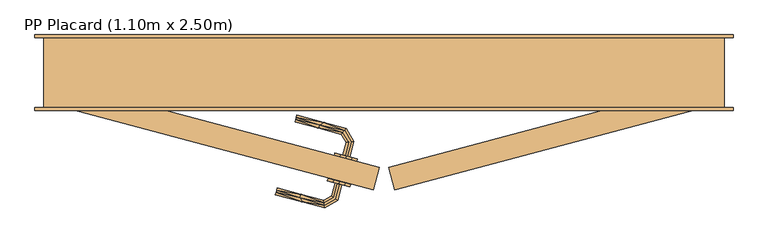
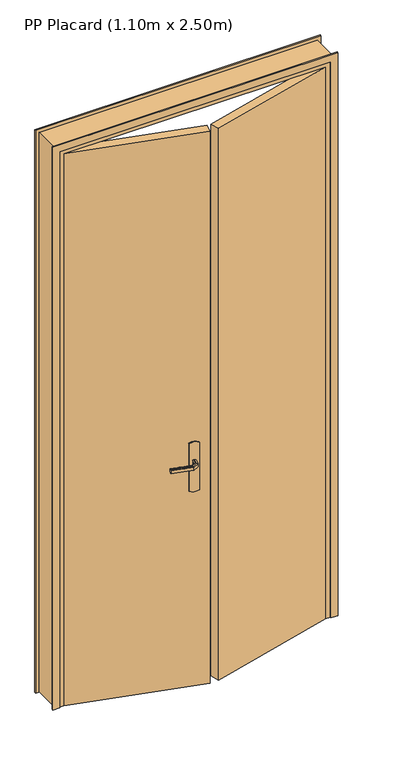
"""IFC4 building model written with IfcOpenShell, lengths in millimetres: door geometry, PP Placard (1.10m x 2.50m)."""

import ifcopenshell
import ifcopenshell.guid

model = None  # the IFC model being written
_history = None  # IfcOwnerHistory: only IFC2X3 demands one
_inside = {}  # id of a spatial element -> (the spatial element, [elements in it])
_under = {}  # id of a project, library or spatial element -> (it, [spatial elements below it])
_declared = {}  # id of a project -> (the project, [libraries it declares])
_typed = {}  # id of a type object -> (the type object, [elements of that type])
_made_of = {}  # id of a material, layer set ... -> (it, [elements and type objects made of it])


def new_model(schema):
    """Start an empty IFC model of exactly this schema.

    Asked for "IFC4X3", IfcOpenShell would pick the latest addendum, in which some entities
    have other attributes; the version numbers below select the first issue.
    IFC2X3 requires an IfcOwnerHistory on every rooted entity: one is made here for all.
    """
    global model, _history
    if schema == "IFC4X3":
        model = ifcopenshell.file(schema_version=(4, 3, 0, 0))
    else:
        model = ifcopenshell.file(schema=schema)
    _inside.clear()
    _under.clear()
    _declared.clear()
    _typed.clear()
    _made_of.clear()
    _history = None
    if model.schema == "IFC2X3":
        org = make("IfcOrganization", Name="unknown")
        user = make(
            "IfcPersonAndOrganization",
            ThePerson=make("IfcPerson", FamilyName="unknown"),
            TheOrganization=org,
        )
        app = make(
            "IfcApplication",
            ApplicationDeveloper=org,
            Version="unknown",
            ApplicationFullName="unknown",
            ApplicationIdentifier="unknown",
        )
        _history = make(
            "IfcOwnerHistory",
            OwningUser=user,
            OwningApplication=app,
            ChangeAction="ADDED",
            CreationDate=0,
        )
    return model


def make(cls, **values):
    """One entity of the class cls with the attributes given. An attribute that is None is left unset."""
    return model.create_entity(
        cls, **{name: value for name, value in values.items() if value is not None}
    )


def rooted(cls, **values):
    """An entity with a GlobalId (a new one), such as an element, a storey or a relation."""
    return make(cls, GlobalId=ifcopenshell.guid.new(), OwnerHistory=_history, **values)


def si_unit(unit_type, name, prefix=None):
    """IfcSIUnit, for example si_unit("LENGTHUNIT", "METRE", prefix="MILLI")."""
    return make("IfcSIUnit", UnitType=unit_type, Prefix=prefix, Name=name)


def assignment(units):
    """IfcUnitAssignment: the units of a project."""
    return None if units is None else make("IfcUnitAssignment", Units=units)


def point(xyz):
    """IfcCartesianPoint."""
    return None if xyz is None else make("IfcCartesianPoint", Coordinates=xyz)


def direction(xyz):
    """IfcDirection."""
    return None if xyz is None else make("IfcDirection", DirectionRatios=xyz)


def frame(location, z_axis=None, x_axis=None):
    """IfcAxis2Placement3D, a coordinate frame: its origin and axes. An axis left out is left unset."""
    return make(
        "IfcAxis2Placement3D",
        Location=point(location),
        Axis=direction(z_axis),
        RefDirection=direction(x_axis),
    )


def origin():
    """The frame at (0, 0, 0) with its axes left unset."""
    return frame((0.0, 0.0, 0.0))


def origin_with_axes():
    """The frame at (0, 0, 0) with the z axis (0, 0, 1) and the x axis (1, 0, 0) written out."""
    return frame((0.0, 0.0, 0.0), z_axis=(0.0, 0.0, 1.0), x_axis=(1.0, 0.0, 0.0))


def place(relative_to, where):
    """IfcLocalPlacement: puts the frame where relative to a parent placement (None: the world)."""
    return make(
        "IfcLocalPlacement", PlacementRelTo=relative_to, RelativePlacement=where
    )


def context(
    kind, dimensions, precision=None, world=None, true_north=None, identifier=None
):
    """IfcGeometricRepresentationContext, for example the 3D "Model" context."""
    return make(
        "IfcGeometricRepresentationContext",
        ContextIdentifier=identifier,
        ContextType=kind,
        CoordinateSpaceDimension=dimensions,
        Precision=precision,
        WorldCoordinateSystem=world,
        TrueNorth=true_north,
    )


def project(units=None, contexts=None):
    """IfcProject with its units and contexts."""
    return rooted(
        "IfcProject",
        Name="project",
        RepresentationContexts=contexts,
        UnitsInContext=assignment(units),
    )


def spatial(cls, under=None, at=None, **own):
    """A site, building, storey or space (cls), placed at a placement, below another one or the project."""
    s = rooted(cls, ObjectPlacement=at, **own)
    if under is not None:
        _under.setdefault(under.id(), (under, []))[1].append(s)
    return s


def polyline(points):
    """IfcPolyline through the points."""
    return make("IfcPolyline", Points=[point(p) for p in points])


def outline(outer, holes=None, kind="AREA"):
    """IfcArbitraryClosedProfileDef: a profile drawn as a closed curve; with holes, ...WithVoids."""
    if holes is None:
        return make("IfcArbitraryClosedProfileDef", ProfileType=kind, OuterCurve=outer)
    return make(
        "IfcArbitraryProfileDefWithVoids",
        ProfileType=kind,
        OuterCurve=outer,
        InnerCurves=holes,
    )


def extrude(swept, where, along, depth):
    """IfcExtrudedAreaSolid: the profile swept, set in the frame where, extruded along a direction by depth."""
    return make(
        "IfcExtrudedAreaSolid",
        SweptArea=swept,
        Position=where,
        ExtrudedDirection=direction(along),
        Depth=depth,
    )


def faces_of(points, faces, orient=None, outer=None):
    """IfcFace entities. A face is a list of loops; a loop is a list of indices into points, from 0.

    orient and outer hold one flag for each loop. By default every Orientation is true, the
    first loop of a face is its IfcFaceOuterBound and the others are IfcFaceBound.
    """
    made = []
    for i, loops in enumerate(faces):
        bounds = []
        for j, loop in enumerate(loops):
            is_outer = j == 0 if outer is None else outer[i][j]
            bounds.append(
                make(
                    "IfcFaceOuterBound" if is_outer else "IfcFaceBound",
                    Bound=make("IfcPolyLoop", Polygon=[points[k] for k in loop]),
                    Orientation=True if orient is None else orient[i][j],
                )
            )
        made.append(make("IfcFace", Bounds=bounds))
    return made


def faceted_brep(points, faces, orient=None, outer=None, voids=None):
    """IfcFacetedBrep: a solid bounded by flat faces; with voids (closed shells), ...WithVoids."""
    shared = [point(p) for p in points]
    hull = make("IfcClosedShell", CfsFaces=faces_of(shared, faces, orient, outer))
    if voids is None:
        return make("IfcFacetedBrep", Outer=hull)
    return make(
        "IfcFacetedBrepWithVoids",
        Outer=hull,
        Voids=[
            make(cls, CfsFaces=faces_of(shared, fs, o, b)) for cls, fs, o, b in voids
        ],
    )


def shape(context_of_items, identifier, shape_type, items):
    """IfcShapeRepresentation: the items that make up one representation, for example the "Body"."""
    return make(
        "IfcShapeRepresentation",
        ContextOfItems=context_of_items,
        RepresentationIdentifier=identifier,
        RepresentationType=shape_type,
        Items=items,
    )


def source(mapping_origin, context_of_items, identifier, shape_type, items):
    """IfcRepresentationMap: a shape defined once, which mapped items show again and again."""
    return make(
        "IfcRepresentationMap",
        MappingOrigin=mapping_origin,
        MappedRepresentation=shape(context_of_items, identifier, shape_type, items),
    )


def transform(
    local_origin,
    x_axis=None,
    y_axis=None,
    z_axis=None,
    scale=None,
    scale2=None,
    scale3=None,
    uniform=True,
):
    """IfcCartesianTransformationOperator3D, or its non-uniform kind. x_axis, y_axis, z_axis: its Axis1, 2, 3."""
    if uniform:
        return make(
            "IfcCartesianTransformationOperator3D",
            Axis1=direction(x_axis),
            Axis2=direction(y_axis),
            LocalOrigin=point(local_origin),
            Scale=scale,
            Axis3=direction(z_axis),
        )
    return make(
        "IfcCartesianTransformationOperator3DnonUniform",
        Axis1=direction(x_axis),
        Axis2=direction(y_axis),
        LocalOrigin=point(local_origin),
        Scale=scale,
        Axis3=direction(z_axis),
        Scale2=scale2,
        Scale3=scale3,
    )


def mapped(mapping_source, mapping_target):
    """IfcMappedItem: shows the shape of a source again, moved by a transform."""
    return make(
        "IfcMappedItem", MappingSource=mapping_source, MappingTarget=mapping_target
    )


def made_of(thing, what):
    """Note that an element or type object is made of a material, layer set ...; save() writes the relation."""
    if what is not None:
        _made_of.setdefault(what.id(), (what, []))[1].append(thing)
    return thing


def element(
    cls,
    number,
    at=None,
    inside=None,
    cuts=None,
    type_object=None,
    material=None,
    context=None,
    identifier="Body",
    shape_type=None,
    held_by="IfcProductDefinitionShape",
    body=None,
    shapes=None,
    **own,
):
    """One element of the class cls, such as IfcWall. Its Tag is "e" and its number.

    at: its placement. inside: the storey or other place that contains it. cuts: it is an
    opening in that element (IfcRelVoidsElement). A single representation is given by context,
    identifier, shape_type and body (its items); several are given by shapes. held_by: the class
    of the entity that holds the representations. save() writes the other relations.
    """
    e = rooted(cls, Tag="e%d" % number, ObjectPlacement=at, **own)
    if body is not None:
        shapes = [shape(context, identifier, shape_type, body)]
    if shapes is not None:
        e.Representation = make(held_by, Representations=shapes)
    if inside is not None:
        _inside.setdefault(inside.id(), (inside, []))[1].append(e)
    if cuts is not None:
        rooted(
            "IfcRelVoidsElement", RelatingBuildingElement=cuts, RelatedOpeningElement=e
        )
    if type_object is not None:
        _typed.setdefault(type_object.id(), (type_object, []))[1].append(e)
    return made_of(e, material)


def aggregate(whole, parts):
    """IfcRelAggregates: a whole, such as a stair, and the parts it consists of."""
    return rooted("IfcRelAggregates", RelatingObject=whole, RelatedObjects=parts)


def save(model, path):
    """Write the relations noted so far, then the file.

    IfcRelAggregates (storeys below a building ...), IfcRelContainedInSpatialStructure (elements
    in a storey), IfcRelDefinesByType, IfcRelAssociatesMaterial and IfcRelDeclares: one each for
    every whole, place, type object, material and project.
    """
    for whole, parts in _under.values():
        aggregate(whole, parts)
    for where, things in _inside.values():
        rooted(
            "IfcRelContainedInSpatialStructure",
            RelatedElements=things,
            RelatingStructure=where,
        )
    for kind, things in _typed.values():
        rooted("IfcRelDefinesByType", RelatedObjects=things, RelatingType=kind)
    for what, things in _made_of.values():
        rooted("IfcRelAssociatesMaterial", RelatedObjects=things, RelatingMaterial=what)
    for by, libraries in _declared.values():
        rooted("IfcRelDeclares", RelatingContext=by, RelatedDefinitions=libraries)
    model.write(path)


def pp_placard_1_10m_x_2_50m_875f3beb(model_context):
    return source(origin(), model_context, "Body", "SolidModel", [
        extrude(outline(polyline([(663.3880337, -103.7134418), (1194.6472382, 38.6370331), (1205.0, 0.0), (673.7407955, -142.3504748), (663.3880337, -103.7134418)])), origin_with_axes(), (0.0, 0.0, 1.0), 2450.0),
        extrude(outline(polyline([(0.0, 1255.0), (2500.0, 1255.0), (2500.0, 55.0), (0.0, 55.0), (0.0, 85.0), (2470.0, 85.0), (2470.0, 1225.0), (0.0, 1225.0), (0.0, 1255.0)])), frame((0.0, 120.0, 0.0), z_axis=(0.0, 1.0, 0.0), x_axis=(0.0, 0.0, 1.0)), (0.0, 0.0, 1.0), 5.0),
        faceted_brep([(1240.0, 0.0, 0.0), (1205.0, 0.0, 0.0), (1205.0, 40.0, 0.0), (1190.0, 40.0, 0.0), (1190.0, 120.0, 0.0), (1240.0, 120.0, 0.0), (1240.0, 120.0, 2485.0), (1240.0, 0.0, 2485.0), (1190.0, 120.0, 2435.0), (120.0, 120.0, 2435.0), (120.0, 120.0, 0.0), (70.0, 120.0, 0.0), (70.0, 120.0, 2485.0), (1190.0, 40.0, 2435.0), (1205.0, 40.0, 2450.0), (105.0, 40.0, 2450.0), (105.0, 40.0, 0.0), (120.0, 40.0, 0.0), (120.0, 40.0, 2435.0), (1205.0, 0.0, 2450.0), (70.0, 0.0, 2485.0), (70.0, 0.0, 0.0), (105.0, 0.0, 0.0), (105.0, 0.0, 2450.0)], [[[0, 1, 2, 3, 4, 5]], [[5, 6, 7, 0]], [[4, 8, 9, 10, 11, 12, 6, 5]], [[3, 13, 8, 4]], [[2, 14, 15, 16, 17, 18, 13, 3]], [[1, 19, 14, 2]], [[0, 7, 20, 21, 22, 23, 19, 1]], [[12, 11, 21, 20]], [[21, 11, 10, 17, 16, 22]], [[18, 17, 10, 9]], [[23, 22, 16, 15]], [[6, 12, 20, 7]], [[13, 18, 9, 8]], [[19, 23, 15, 14]]]),
        faceted_brep([(587.9942236, -82.8304841, 992.2195592), (591.9068002, -83.8788558, 992.2195592), (595.7460669, -84.9075842, 993.0), (595.7460669, -84.9075842, 1007.0), (591.9068002, -83.8788558, 1007.7804408), (587.9942236, -82.8304841, 1007.7804408), (584.154957, -81.8017556, 1007.0), (584.154957, -81.8017556, 993.0), (589.9745561, -60.0827159, 1007.0), (589.9745561, -60.0827159, 993.0), (594.239936, -59.521168, 1007.7804408), (598.5867624, -58.9488974, 1007.7804408), (587.1412545, -39.1246963, 1007.7804408), (584.4722405, -42.603023, 1007.7804408), (602.8521423, -58.3873495, 1007.0), (602.8521423, -58.3873495, 993.0), (598.5867624, -58.9488974, 992.2195592), (594.239936, -59.521168, 992.2195592), (584.4722405, -42.603023, 992.2195592), (587.1412545, -39.1246963, 992.2195592), (581.8532358, -46.0161764, 1007.0), (581.8532358, -46.0161764, 993.0), (589.7602592, -35.7115428, 1007.0), (589.7602592, -35.7115428, 993.0), (503.1346428, -20.8086794, 1007.7804408), (504.1830145, -16.8961028, 1007.7804408), (505.2117429, -13.0568362, 1007.0), (505.2117429, -13.0568362, 993.0), (504.1830145, -16.8961028, 992.2195592), (503.1346428, -20.8086794, 992.2195592), (502.1059144, -24.6479461, 993.0), (502.1059144, -24.6479461, 1007.0), (541.9795751, -35.3320613, 1007.0), (541.9795866, -35.3320643, 993.0), (544.3276275, -29.7495629, 1007.8786868), (551.1903704, -25.3767723, 1007.0), (551.1903718, -25.3767727, 993.0), (544.3276273, -29.7495629, 992.1213132)], [[[0, 1, 2, 3, 4, 5, 6, 7]], [[8, 9, 7, 6]], [[5, 10, 8, 6]], [[5, 4, 11, 12, 13, 10]], [[3, 14, 11, 4]], [[14, 3, 2, 15]], [[2, 1, 16, 15]], [[1, 0, 17, 18, 19, 16]], [[0, 7, 9, 17]], [[20, 21, 9, 8]], [[8, 10, 13, 20]], [[14, 22, 12, 11]], [[23, 22, 14, 15]], [[15, 16, 19, 23]], [[17, 9, 21, 18]], [[24, 25, 26, 27, 28, 29, 30, 31]], [[21, 20, 32, 31, 30, 33]], [[34, 24, 32]], [[25, 34, 35]], [[13, 32, 20]], [[24, 31, 32]], [[25, 35, 26]], [[35, 12, 22]], [[34, 12, 35]], [[34, 13, 12]], [[34, 32, 13]], [[24, 34, 25]], [[22, 23, 36, 27, 26, 35]], [[37, 28, 36]], [[36, 28, 27]], [[36, 23, 19]], [[18, 33, 37]], [[33, 18, 21]], [[30, 29, 33]], [[37, 29, 28]], [[37, 33, 29]], [[37, 36, 19]], [[18, 37, 19]]]),
        extrude(outline(polyline([(0.0, 0.0), (206.2910989, 39.2935427), (212.0216555, 30.5643917), (215.2976776, 20.6495021), (215.8959097, 10.2245573), (213.7755833, 0.0), (7.4844843, -39.2935427), (1.7539277, -30.5643916), (-1.5220943, -20.6495021), (-2.1203264, -10.2245572), (0.0, 0.0)])), frame((596.3280762, -136.8273421, 870.0), z_axis=(0.2588190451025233, 0.9659258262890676, 0.0), x_axis=(-0.18073641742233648, 0.04842817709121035, 0.982338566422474)), (0.0, 0.0, 1.0), 5.0),
        faceted_brep([(575.0532714, -131.1267754, 1007.7804408), (578.9658479, -132.1751471, 1007.7804408), (582.8051146, -133.2038755, 1007.0), (582.8051146, -133.2038755, 993.0), (578.9658479, -132.1751471, 992.2195592), (575.0532714, -131.1267754, 992.2195592), (571.2140047, -130.098047, 993.0), (571.2140047, -130.098047, 1007.0), (572.2353685, -157.2936382, 1007.7804408), (575.648522, -159.9126429, 1007.0), (568.7570418, -154.6246242, 1007.7804408), (552.0073098, -164.2950864, 1007.7804408), (552.5795804, -168.6419128, 1007.7804408), (565.3438883, -152.0056194, 1007.0), (565.3438883, -152.0056194, 993.0), (568.7570418, -154.6246242, 992.2195592), (572.2353685, -157.2936382, 992.2195592), (552.5795804, -168.6419128, 992.2195592), (552.0073098, -164.2950864, 992.2195592), (575.648522, -159.9126429, 993.0), (553.1411283, -172.9072927, 1007.0), (551.4457619, -160.0297065, 1007.0), (551.4457619, -160.0297065, 993.0), (553.1411283, -172.9072927, 993.0), (468.486007, -150.2240213, 1007.0), (469.5147354, -146.3847546, 1007.7804408), (470.5631071, -142.4721781, 1007.7804408), (471.5918355, -138.6329114, 1007.0), (471.5918355, -138.6329114, 993.0), (470.5631071, -142.4721781, 992.2195592), (469.5147354, -146.3847546, 992.2195592), (468.486007, -150.2240213, 993.0), (510.7610226, -155.3399205, 1007.8786868), (514.5712394, -162.5725221, 1007.0), (511.5187987, -149.3313089, 1007.0), (511.5187987, -149.3313089, 993.0), (510.7610227, -155.3399206, 992.1213132), (514.5712468, -162.5725241, 993.0)], [[[0, 1, 2, 3, 4, 5, 6, 7]], [[2, 1, 8, 9]], [[1, 0, 10, 11, 12, 8]], [[0, 7, 13, 10]], [[14, 13, 7, 6]], [[5, 15, 14, 6]], [[5, 4, 16, 17, 18, 15]], [[3, 19, 16, 4]], [[9, 19, 3, 2]], [[9, 8, 12, 20]], [[10, 13, 21, 11]], [[22, 21, 13, 14]], [[14, 15, 18, 22]], [[16, 19, 23, 17]], [[20, 23, 19, 9]], [[24, 25, 26, 27, 28, 29, 30, 31]], [[32, 25, 33]], [[33, 25, 24]], [[33, 20, 12]], [[11, 34, 32]], [[34, 11, 21]], [[27, 26, 34]], [[32, 26, 25]], [[32, 34, 26]], [[32, 33, 12]], [[11, 32, 12]], [[21, 22, 35, 28, 27, 34]], [[36, 29, 35]], [[30, 36, 37]], [[18, 35, 22]], [[29, 28, 35]], [[30, 37, 31]], [[37, 17, 23]], [[36, 17, 37]], [[36, 18, 17]], [[36, 35, 18]], [[29, 36, 30]], [[23, 20, 33, 24, 31, 37]]]),
        extrude(outline(polyline([(646.6119663, -103.7134418), (636.2592045, -142.3504748), (105.0, 0.0), (115.3527618, 38.6370331), (646.6119663, -103.7134418)])), origin_with_axes(), (0.0, 0.0, 1.0), 2450.0),
        extrude(outline(polyline([(0.0, 1255.0), (2500.0, 1255.0), (2500.0, 55.0), (0.0, 55.0), (0.0, 85.0), (2470.0, 85.0), (2470.0, 1225.0), (0.0, 1225.0), (0.0, 1255.0)])), frame((0.0, -5.0, 0.0), z_axis=(0.0, 1.0, 0.0), x_axis=(0.0, 0.0, 1.0)), (0.0, 0.0, 1.0), 5.0),
        extrude(outline(polyline([(0.0, 0.0), (206.2910989, 39.2935427), (212.0216555, 30.5643917), (215.2976776, 20.6495021), (215.8959097, 10.2245573), (213.7755833, 0.0), (7.4844843, -39.2935426), (1.7539277, -30.5643917), (-1.5220943, -20.6495021), (-2.1203264, -10.2245573), (0.0, 0.0)])), frame((607.9749332, -93.36068, 870.0), z_axis=(0.25881904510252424, 0.9659258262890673, 0.0), x_axis=(-0.18073641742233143, 0.04842817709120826, 0.9823385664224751)), (0.0, 0.0, 1.0), 5.0),
    ])


if __name__ == "__main__":
    model = new_model("IFC4")
    model_context = context("Model", 3, world=origin())
    ifc_project = project(units=[si_unit("LENGTHUNIT", "METRE", prefix="MILLI")], contexts=[model_context])
    site = spatial("IfcSite", under=ifc_project)
    building = spatial("IfcBuilding", under=site)
    placement = place(None, origin())
    pp_placard_1_10m_x_2_50m_shape = pp_placard_1_10m_x_2_50m_875f3beb(model_context)
    element("IfcDoor", 1, ObjectType="PP Placard (1.10m x 2.50m)", at=placement, inside=building, context=model_context, shape_type="MappedRepresentation", body=[
        mapped(pp_placard_1_10m_x_2_50m_shape, transform((0.0, 0.0, 0.0), x_axis=(1.0, 0.0, 0.0), y_axis=(0.0, 1.0, 0.0), z_axis=(0.0, 0.0, 1.0))),
    ])
    save(model, "model.ifc")
